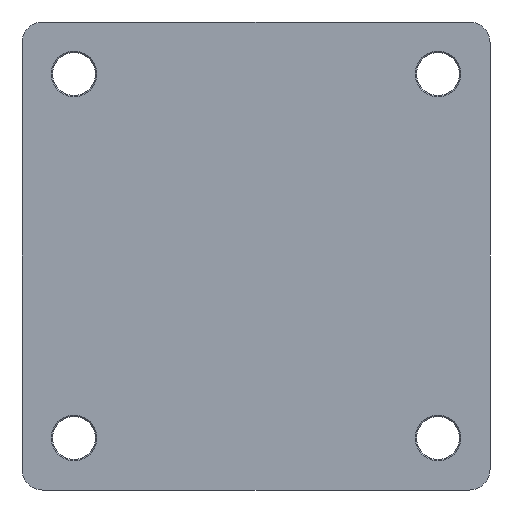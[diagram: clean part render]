
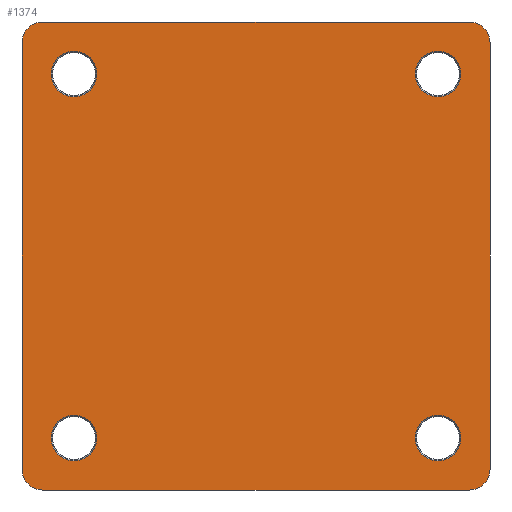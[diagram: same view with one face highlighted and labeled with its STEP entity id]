
A CAD part, left-side view. The second image highlights one B-rep face of the part: STEP entity #1374.
In plain terms, the highlighted planar face has unit normal (-1, 0, 0).
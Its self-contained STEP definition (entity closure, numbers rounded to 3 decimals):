
#2 = EDGE_LOOP ( 'NONE', ( #1754, #1221 ) ) ;
#14 = CARTESIAN_POINT ( 'NONE',  ( -19.5, -70., 78.75 ) ) ;
#41 = ORIENTED_EDGE ( 'NONE', *, *, #1093, .F. ) ;
#52 = DIRECTION ( 'NONE',  ( 0., 0., -1. ) ) ;
#75 = CARTESIAN_POINT ( 'NONE',  ( -19.5, -70., 70. ) ) ;
#90 = DIRECTION ( 'NONE',  ( 0., 0., 1. ) ) ;
#95 = CARTESIAN_POINT ( 'NONE',  ( -19.5, 82., 82. ) ) ;
#101 = CARTESIAN_POINT ( 'NONE',  ( -19.5, 90., 82. ) ) ;
#128 = VERTEX_POINT ( 'NONE', #339 ) ;
#138 = EDGE_CURVE ( 'NONE', #1795, #567, #1879, .T. ) ;
#165 = CARTESIAN_POINT ( 'NONE',  ( -19.5, 70., 61.25 ) ) ;
#177 = CIRCLE ( 'NONE', #400, 8.75 ) ;
#186 = DIRECTION ( 'NONE',  ( 0., -1., 0. ) ) ;
#197 = VERTEX_POINT ( 'NONE', #1465 ) ;
#218 = VERTEX_POINT ( 'NONE', #165 ) ;
#230 = EDGE_CURVE ( 'NONE', #2047, #1129, #429, .T. ) ;
#241 = CARTESIAN_POINT ( 'NONE',  ( -19.5, 70., -70. ) ) ;
#243 = DIRECTION ( 'NONE',  ( 0., 0., 1. ) ) ;
#246 = ORIENTED_EDGE ( 'NONE', *, *, #1436, .F. ) ;
#249 = VECTOR ( 'NONE', #1308, 1000. ) ;
#259 = DIRECTION ( 'NONE',  ( -1., 0., 0. ) ) ;
#288 = DIRECTION ( 'NONE',  ( 0., 0., 1. ) ) ;
#290 = CIRCLE ( 'NONE', #1589, 8.75 ) ;
#295 = VERTEX_POINT ( 'NONE', #725 ) ;
#302 = AXIS2_PLACEMENT_3D ( 'NONE', #973, #1726, #775 ) ;
#306 = CARTESIAN_POINT ( 'NONE',  ( -19.5, -90., 82. ) ) ;
#327 = CARTESIAN_POINT ( 'NONE',  ( -19.5, 90., -82. ) ) ;
#330 = VERTEX_POINT ( 'NONE', #101 ) ;
#339 = CARTESIAN_POINT ( 'NONE',  ( -19.5, 70., 78.75 ) ) ;
#341 = EDGE_CURVE ( 'NONE', #1129, #1795, #1393, .T. ) ;
#360 = ORIENTED_EDGE ( 'NONE', *, *, #419, .F. ) ;
#363 = CARTESIAN_POINT ( 'NONE',  ( -19.5, -70., -70. ) ) ;
#396 = VERTEX_POINT ( 'NONE', #327 ) ;
#399 = CARTESIAN_POINT ( 'NONE',  ( -19.5, 70., -61.25 ) ) ;
#400 = AXIS2_PLACEMENT_3D ( 'NONE', #1106, #1116, #288 ) ;
#401 = AXIS2_PLACEMENT_3D ( 'NONE', #1880, #448, #1582 ) ;
#402 = CARTESIAN_POINT ( 'NONE',  ( -19.5, 82., 90. ) ) ;
#419 = EDGE_CURVE ( 'NONE', #197, #908, #718, .T. ) ;
#426 = EDGE_CURVE ( 'NONE', #295, #1397, #917, .T. ) ;
#429 = LINE ( 'NONE', #1020, #814 ) ;
#448 = DIRECTION ( 'NONE',  ( 1., 0., 0. ) ) ;
#474 = AXIS2_PLACEMENT_3D ( 'NONE', #1759, #1248, #811 ) ;
#486 = EDGE_CURVE ( 'NONE', #1397, #295, #1778, .T. ) ;
#502 = ORIENTED_EDGE ( 'NONE', *, *, #138, .F. ) ;
#511 = AXIS2_PLACEMENT_3D ( 'NONE', #1141, #1294, #1651 ) ;
#546 = EDGE_CURVE ( 'NONE', #218, #128, #1485, .T. ) ;
#551 = CIRCLE ( 'NONE', #1026, 8. ) ;
#566 = EDGE_CURVE ( 'NONE', #1688, #931, #177, .T. ) ;
#567 = VERTEX_POINT ( 'NONE', #611 ) ;
#587 = CARTESIAN_POINT ( 'NONE',  ( -19.5, 70., 70. ) ) ;
#611 = CARTESIAN_POINT ( 'NONE',  ( -19.5, -90., -82. ) ) ;
#638 = EDGE_LOOP ( 'NONE', ( #1311, #1826 ) ) ;
#658 = ORIENTED_EDGE ( 'NONE', *, *, #1847, .F. ) ;
#666 = FACE_BOUND ( 'NONE', #2, .T. ) ;
#678 = EDGE_CURVE ( 'NONE', #567, #2044, #1863, .T. ) ;
#703 = AXIS2_PLACEMENT_3D ( 'NONE', #2030, #907, #1071 ) ;
#718 = CIRCLE ( 'NONE', #302, 8.75 ) ;
#725 = CARTESIAN_POINT ( 'NONE',  ( -19.5, -70., 61.25 ) ) ;
#732 = CARTESIAN_POINT ( 'NONE',  ( -19.5, -82., -82. ) ) ;
#775 = DIRECTION ( 'NONE',  ( 0., 0., 1. ) ) ;
#780 = FACE_OUTER_BOUND ( 'NONE', #1558, .T. ) ;
#811 = DIRECTION ( 'NONE',  ( 0., 0., -1. ) ) ;
#814 = VECTOR ( 'NONE', #186, 1000. ) ;
#827 = EDGE_CURVE ( 'NONE', #330, #2047, #551, .T. ) ;
#829 = CARTESIAN_POINT ( 'NONE',  ( -19.5, 82., -90. ) ) ;
#867 = ORIENTED_EDGE ( 'NONE', *, *, #486, .F. ) ;
#874 = CIRCLE ( 'NONE', #2082, 8.75 ) ;
#905 = CARTESIAN_POINT ( 'NONE',  ( -19.5, -82., -90. ) ) ;
#906 = DIRECTION ( 'NONE',  ( 0., 1., 0. ) ) ;
#907 = DIRECTION ( 'NONE',  ( -1., 0., 0. ) ) ;
#908 = VERTEX_POINT ( 'NONE', #1368 ) ;
#910 = ORIENTED_EDGE ( 'NONE', *, *, #341, .F. ) ;
#917 = CIRCLE ( 'NONE', #511, 8.75 ) ;
#931 = VERTEX_POINT ( 'NONE', #399 ) ;
#949 = LINE ( 'NONE', #1830, #1426 ) ;
#966 = EDGE_CURVE ( 'NONE', #128, #218, #1874, .T. ) ;
#972 = ORIENTED_EDGE ( 'NONE', *, *, #230, .F. ) ;
#973 = CARTESIAN_POINT ( 'NONE',  ( -19.5, -70., -70. ) ) ;
#1001 = DIRECTION ( 'NONE',  ( -1., 0., 0. ) ) ;
#1009 = ORIENTED_EDGE ( 'NONE', *, *, #678, .F. ) ;
#1016 = DIRECTION ( 'NONE',  ( 0., 0., -1. ) ) ;
#1020 = CARTESIAN_POINT ( 'NONE',  ( -19.5, 82., 90. ) ) ;
#1026 = AXIS2_PLACEMENT_3D ( 'NONE', #95, #2061, #1241 ) ;
#1071 = DIRECTION ( 'NONE',  ( 0., 0., 1. ) ) ;
#1093 = EDGE_CURVE ( 'NONE', #1839, #396, #1317, .T. ) ;
#1095 = VECTOR ( 'NONE', #1620, 1000. ) ;
#1098 = DIRECTION ( 'NONE',  ( -1., 0., 0. ) ) ;
#1106 = CARTESIAN_POINT ( 'NONE',  ( -19.5, 70., -70. ) ) ;
#1116 = DIRECTION ( 'NONE',  ( -1., 0., 0. ) ) ;
#1129 = VERTEX_POINT ( 'NONE', #1888 ) ;
#1141 = CARTESIAN_POINT ( 'NONE',  ( -19.5, -70., 70. ) ) ;
#1173 = DIRECTION ( 'NONE',  ( 0., 0., 1. ) ) ;
#1174 = ORIENTED_EDGE ( 'NONE', *, *, #1542, .F. ) ;
#1200 = FACE_BOUND ( 'NONE', #1482, .T. ) ;
#1221 = ORIENTED_EDGE ( 'NONE', *, *, #566, .F. ) ;
#1241 = DIRECTION ( 'NONE',  ( 0., 0., -1. ) ) ;
#1248 = DIRECTION ( 'NONE',  ( 1., 0., 0. ) ) ;
#1294 = DIRECTION ( 'NONE',  ( -1., 0., 0. ) ) ;
#1308 = DIRECTION ( 'NONE',  ( 0., 0., 1. ) ) ;
#1311 = ORIENTED_EDGE ( 'NONE', *, *, #966, .F. ) ;
#1317 = CIRCLE ( 'NONE', #401, 8. ) ;
#1368 = CARTESIAN_POINT ( 'NONE',  ( -19.5, -70., -61.25 ) ) ;
#1374 = ADVANCED_FACE ( 'NONE', ( #666, #1616, #1200, #1497, #780 ), #1962, .F. ) ;
#1393 = CIRCLE ( 'NONE', #474, 8. ) ;
#1397 = VERTEX_POINT ( 'NONE', #14 ) ;
#1426 = VECTOR ( 'NONE', #906, 1000. ) ;
#1436 = EDGE_CURVE ( 'NONE', #908, #197, #290, .T. ) ;
#1462 = ORIENTED_EDGE ( 'NONE', *, *, #827, .F. ) ;
#1465 = CARTESIAN_POINT ( 'NONE',  ( -19.5, -70., -78.75 ) ) ;
#1479 = ORIENTED_EDGE ( 'NONE', *, *, #426, .F. ) ;
#1482 = EDGE_LOOP ( 'NONE', ( #246, #360 ) ) ;
#1485 = CIRCLE ( 'NONE', #703, 8.75 ) ;
#1497 = FACE_BOUND ( 'NONE', #1808, .T. ) ;
#1542 = EDGE_CURVE ( 'NONE', #2044, #1839, #949, .T. ) ;
#1558 = EDGE_LOOP ( 'NONE', ( #910, #972, #1462, #658, #41, #1174, #1009, #502 ) ) ;
#1567 = AXIS2_PLACEMENT_3D ( 'NONE', #732, #1807, #52 ) ;
#1582 = DIRECTION ( 'NONE',  ( 0., 0., -1. ) ) ;
#1589 = AXIS2_PLACEMENT_3D ( 'NONE', #363, #1001, #1173 ) ;
#1616 = FACE_BOUND ( 'NONE', #638, .T. ) ;
#1620 = DIRECTION ( 'NONE',  ( 0., 0., -1. ) ) ;
#1651 = DIRECTION ( 'NONE',  ( 0., 0., 1. ) ) ;
#1662 = CARTESIAN_POINT ( 'NONE',  ( -19.5, -82., 82. ) ) ;
#1665 = LINE ( 'NONE', #1961, #249 ) ;
#1688 = VERTEX_POINT ( 'NONE', #2074 ) ;
#1726 = DIRECTION ( 'NONE',  ( -1., 0., 0. ) ) ;
#1754 = ORIENTED_EDGE ( 'NONE', *, *, #2107, .F. ) ;
#1759 = CARTESIAN_POINT ( 'NONE',  ( -19.5, -82., 82. ) ) ;
#1764 = AXIS2_PLACEMENT_3D ( 'NONE', #75, #1098, #243 ) ;
#1778 = CIRCLE ( 'NONE', #1764, 8.75 ) ;
#1795 = VERTEX_POINT ( 'NONE', #306 ) ;
#1807 = DIRECTION ( 'NONE',  ( 1., 0., 0. ) ) ;
#1808 = EDGE_LOOP ( 'NONE', ( #867, #1479 ) ) ;
#1826 = ORIENTED_EDGE ( 'NONE', *, *, #546, .F. ) ;
#1830 = CARTESIAN_POINT ( 'NONE',  ( -19.5, -82., -90. ) ) ;
#1839 = VERTEX_POINT ( 'NONE', #829 ) ;
#1847 = EDGE_CURVE ( 'NONE', #396, #330, #1665, .T. ) ;
#1863 = CIRCLE ( 'NONE', #1567, 8. ) ;
#1874 = CIRCLE ( 'NONE', #1948, 8.75 ) ;
#1879 = LINE ( 'NONE', #1958, #1095 ) ;
#1880 = CARTESIAN_POINT ( 'NONE',  ( -19.5, 82., -82. ) ) ;
#1888 = CARTESIAN_POINT ( 'NONE',  ( -19.5, -82., 90. ) ) ;
#1912 = AXIS2_PLACEMENT_3D ( 'NONE', #1662, #1980, #1016 ) ;
#1948 = AXIS2_PLACEMENT_3D ( 'NONE', #587, #259, #90 ) ;
#1958 = CARTESIAN_POINT ( 'NONE',  ( -19.5, -90., 82. ) ) ;
#1961 = CARTESIAN_POINT ( 'NONE',  ( -19.5, 90., -82. ) ) ;
#1962 = PLANE ( 'NONE',  #1912 ) ;
#1980 = DIRECTION ( 'NONE',  ( 1., 0., 0. ) ) ;
#2025 = DIRECTION ( 'NONE',  ( -1., 0., 0. ) ) ;
#2029 = DIRECTION ( 'NONE',  ( 0., 0., 1. ) ) ;
#2030 = CARTESIAN_POINT ( 'NONE',  ( -19.5, 70., 70. ) ) ;
#2044 = VERTEX_POINT ( 'NONE', #905 ) ;
#2047 = VERTEX_POINT ( 'NONE', #402 ) ;
#2061 = DIRECTION ( 'NONE',  ( 1., 0., 0. ) ) ;
#2074 = CARTESIAN_POINT ( 'NONE',  ( -19.5, 70., -78.75 ) ) ;
#2082 = AXIS2_PLACEMENT_3D ( 'NONE', #241, #2025, #2029 ) ;
#2107 = EDGE_CURVE ( 'NONE', #931, #1688, #874, .T. ) ;
